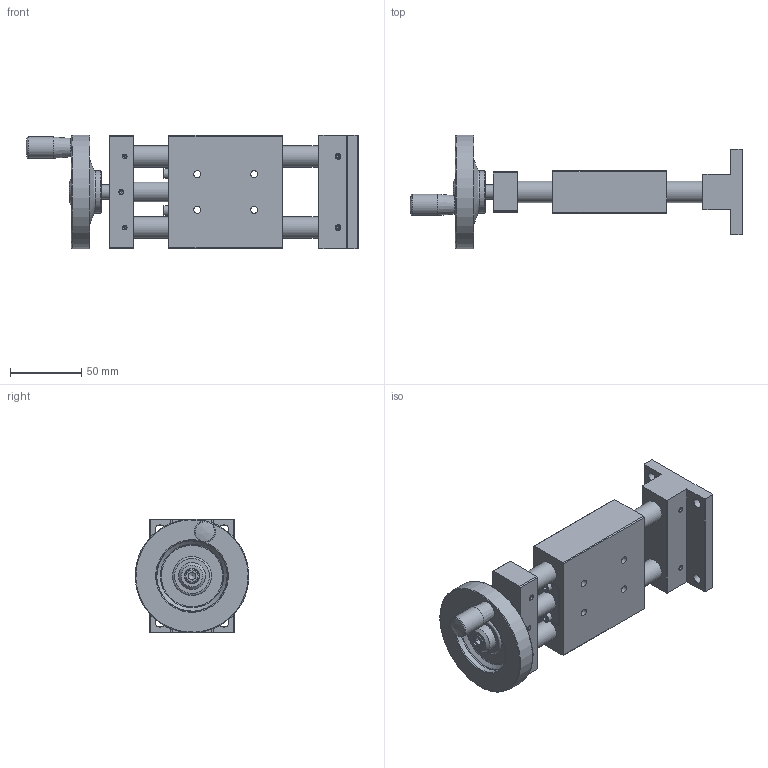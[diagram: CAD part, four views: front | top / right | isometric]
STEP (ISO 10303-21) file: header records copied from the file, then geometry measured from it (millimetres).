
FILE_DESCRIPTION (( 'STEP AP203' ), '1' );
FILE_NAME ('BHT80-25.STEP', '2024-07-30T01:06:37', ( 'Windows User' ), ( 'P R C' ), 'SwSTEP 2.0', 'SolidWorks 2024', '' );
FILE_SCHEMA (( 'CONFIG_CONTROL_DESIGN' ));
Length unit declared in the file: millimetre
Products named in the file (1): BHT80-25
Bounding box: 233.4 x 79.83 x 80 mm (x, y, z)
Volume: 387306.5 mm3; surface area: 111427.6 mm2
Topology: 25 solids, 25 shells, 458 faces, 1029 edges, 643 vertices
Faces by surface type: plane 285, cylinder 92, cone 66, torus 14, sphere 1
Full cylindrical faces by diameter (mm): 3.3 x12, 4 x12, 4.5 x2, 4.917 x1, 5 x5, 6 x2, 6.6 x5, 7 x2, 7.5 x2, 8 x2, 10 x6, 10.1 x1, 11 x1, 14 x2, 14.5 x1, 15 x9, 16 x2, 17 x1, 17.1 x1, 19 x1, 20 x1, 20.5 x1, 30 x1, 50 x1, 80 x1
Entity records: 12161 total; most frequent: CARTESIAN_POINT 2517, DIRECTION 2044, ORIENTED_EDGE 1646, EDGE_CURVE 823, AXIS2_PLACEMENT_3D 778, EDGE_LOOP 702, VERTEX_POINT 593, FACE_OUTER_BOUND 547
